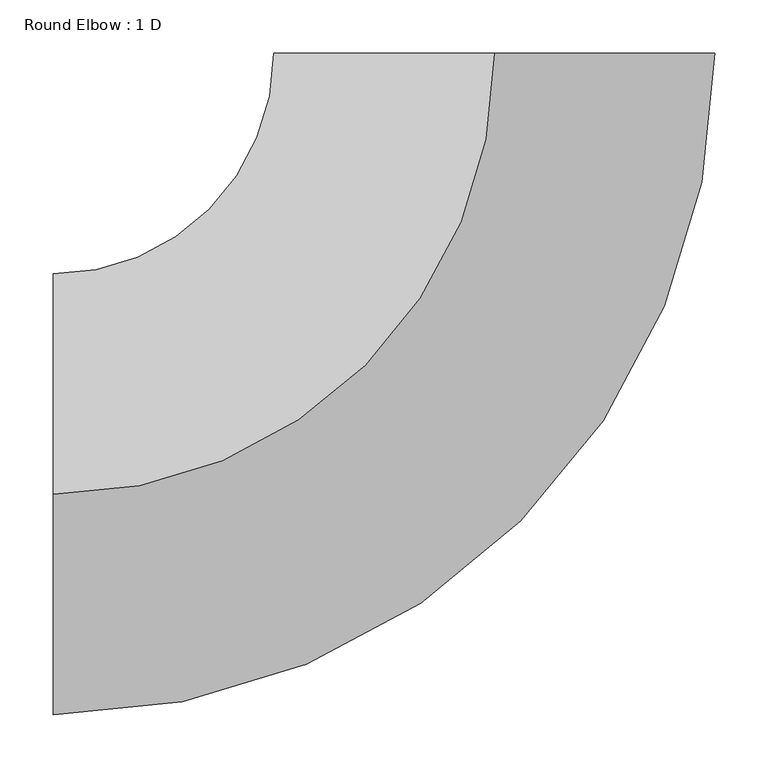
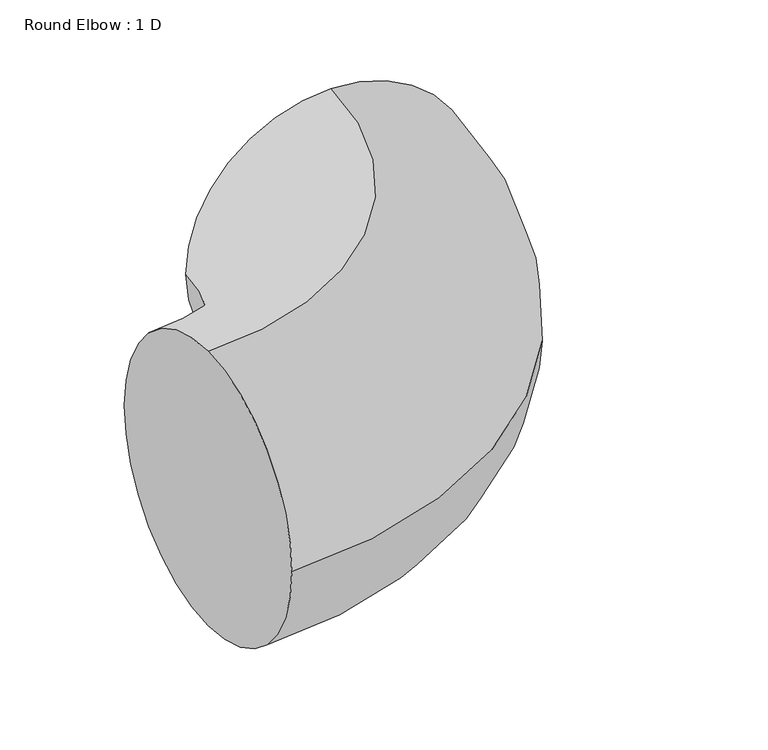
"""IFC4 building model written with IfcOpenShell, lengths in millimetres: duct fitting geometry, Round Elbow : 1 D."""

from ifc_helpers import new_model, si_unit, point, frame, origin, place, context, project, spatial, circle_curve, ellipse_curve, trimmed, source, transform, mapped, element, save
from ifc_brep_helpers import plane_surface, revolved_surface, advanced_brep


def round_elbow_1_d_b161354f(model_context):
    return source(origin(), model_context, "Body", "AdvancedBrep", [
        advanced_brep(
        [(-412.75, 0.0, 206.375), (-412.75, 206.375, 0.0), (-412.75, 0.0, -206.375), (-412.75, -206.375, 0.0), (0.0, 412.75, 206.375), (206.375, 412.75, 0.0), (0.0, 412.75, -206.375), (-206.375, 412.75, 0.0)],
        [
            (0, 1, circle_curve(frame((-412.75, 0.0, 0.0), z_axis=(-1.0, 0.0, 0.0), x_axis=(0.0, 1.0, 0.0)), 206.375)),
            (1, 2, circle_curve(frame((-412.75, 0.0, 0.0), z_axis=(-1.0, 0.0, 0.0), x_axis=(0.0, 1.0, 0.0)), 206.375)),
            (2, 3, circle_curve(frame((-412.75, 0.0, 0.0), z_axis=(-1.0, 0.0, 0.0), x_axis=(0.0, 1.0, 0.0)), 206.375)),
            (3, 0, circle_curve(frame((-412.75, 0.0, 0.0), z_axis=(-1.0, 0.0, 0.0), x_axis=(0.0, 1.0, 0.0)), 206.375)),
            (4, 5, circle_curve(frame((0.0, 412.75, 0.0), z_axis=(0.0, 1.0, 0.0), x_axis=(-1.0, 0.0, 0.0)), 206.375)),
            (5, 6, circle_curve(frame((0.0, 412.75, 0.0), z_axis=(0.0, 1.0, 0.0), x_axis=(-1.0, 0.0, 0.0)), 206.375)),
            (6, 7, circle_curve(frame((0.0, 412.75, 0.0), z_axis=(0.0, 1.0, 0.0), x_axis=(-1.0, 0.0, 0.0)), 206.375)),
            (7, 4, circle_curve(frame((0.0, 412.75, 0.0), z_axis=(0.0, 1.0, 0.0), x_axis=(-1.0, 0.0, 0.0)), 206.375)),
            (7, 1, circle_curve(frame((-412.75, 412.75, 0.0), z_axis=(0.0, 0.0, -1.0), x_axis=(0.0, -1.0, 0.0)), 206.375)),
            (0, 4, circle_curve(frame((-412.75, 412.75, 206.375), z_axis=(0.0, 0.0, 1.0), x_axis=(0.0, -1.0, 0.0)), 412.75)),
            (6, 2, circle_curve(frame((-412.75, 412.75, -206.375), z_axis=(0.0, 0.0, -1.0), x_axis=(0.0, -1.0, 0.0)), 412.75)),
            (5, 3, circle_curve(frame((-412.75, 412.75, 0.0), z_axis=(0.0, 0.0, -1.0), x_axis=(0.0, -1.0, 0.0)), 619.125)),
        ],
        [
            plane_surface(frame((-412.75, 0.0, 0.0), z_axis=(-1.0, 0.0, 0.0), x_axis=(0.0, 0.0, 1.0))),
            plane_surface(frame((0.0, 412.75, 0.0), z_axis=(0.0, 1.0, 0.0), x_axis=(0.0, 0.0, 1.0))),
            revolved_surface(trimmed(ellipse_curve(frame((-412.75, 0.0, 0.0), z_axis=(-1.0, 0.0, 0.0), x_axis=(0.0, 1.0, 0.0)), 206.375, 206.375), [point((-412.75, 0.0, 206.375))], [point((-412.75, 206.375, 0.0))], True, "CARTESIAN"), (-412.75, 412.75, 0.0), (0.0, 0.0, 1.0)),
            revolved_surface(trimmed(ellipse_curve(frame((-412.75, 0.0, 0.0), z_axis=(-1.0, 0.0, 0.0), x_axis=(0.0, 1.0, 0.0)), 206.375, 206.375), [point((-412.75, 206.375, 0.0))], [point((-412.75, 0.0, -206.375))], True, "CARTESIAN"), (-412.75, 412.75, 0.0), (0.0, 0.0, 1.0)),
            revolved_surface(trimmed(ellipse_curve(frame((-412.75, 0.0, 0.0), z_axis=(-1.0, 0.0, 0.0), x_axis=(0.0, 1.0, 0.0)), 206.375, 206.375), [point((-412.75, 0.0, -206.375))], [point((-412.75, -206.375, 0.0))], True, "CARTESIAN"), (-412.75, 412.75, 0.0), (0.0, 0.0, 1.0)),
            revolved_surface(trimmed(ellipse_curve(frame((-412.75, 0.0, 0.0), z_axis=(-1.0, 0.0, 0.0), x_axis=(0.0, 1.0, 0.0)), 206.375, 206.375), [point((-412.75, -206.375, 0.0))], [point((-412.75, 0.0, 206.375))], True, "CARTESIAN"), (-412.75, 412.75, 0.0), (0.0, 0.0, 1.0)),
        ],
        [
            (0, [[1, 2, 3, 4]]),
            (1, [[5, 6, 7, 8]]),
            (2, [[9, -1, 10, -8]]),
            (3, [[11, -2, -9, -7]]),
            (4, [[12, -3, -11, -6]]),
            (5, [[-10, -4, -12, -5]]),
        ],
    ),
    ])


if __name__ == "__main__":
    model = new_model("IFC4")
    model_context = context("Model", 3, world=origin())
    ifc_project = project(units=[si_unit("LENGTHUNIT", "METRE", prefix="MILLI")], contexts=[model_context])
    site = spatial("IfcSite", under=ifc_project)
    building = spatial("IfcBuilding", under=site)
    placement = place(None, origin())
    round_elbow_1_d_shape = round_elbow_1_d_b161354f(model_context)
    element("IfcDuctFitting", 1, ObjectType="Round Elbow : 1 D", at=placement, inside=building, context=model_context, shape_type="MappedRepresentation", body=[
        mapped(round_elbow_1_d_shape, transform((0.0, 0.0, 0.0), x_axis=(1.0, 0.0, 0.0), y_axis=(0.0, 1.0, 0.0), z_axis=(0.0, 0.0, 1.0))),
    ])
    save(model, "model.ifc")
